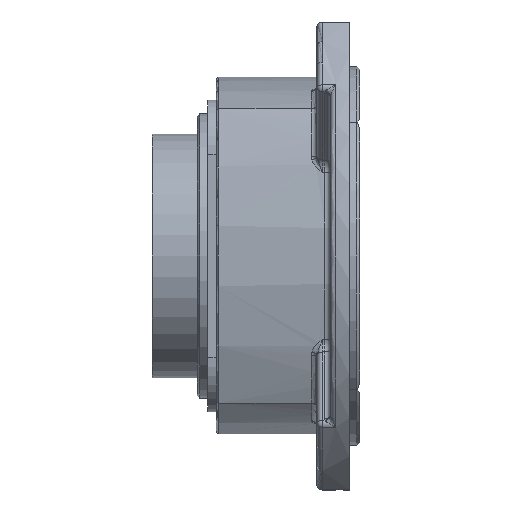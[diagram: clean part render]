
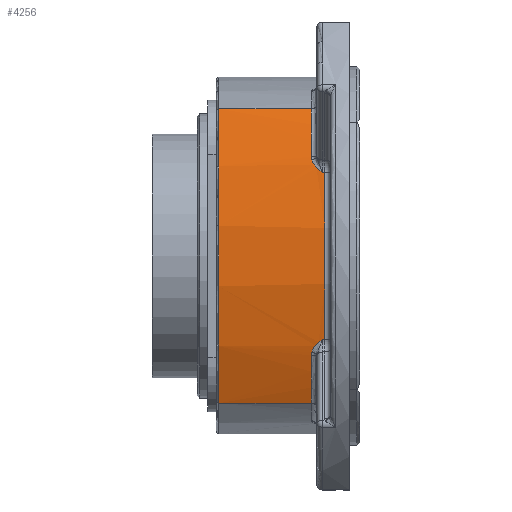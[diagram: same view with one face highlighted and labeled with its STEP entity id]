
A CAD part, front view. The second image highlights one B-rep face of the part: STEP entity #4256.
In plain terms, the highlighted cylindrical face has radius 132 mm (diameter 264 mm), a partial arc.
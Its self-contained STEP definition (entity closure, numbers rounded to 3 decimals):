
#993 = LINE ( 'NONE', #7172, #996 ) ;
#996 = VECTOR ( 'NONE', #7174, 1000. ) ;
#1009 = CIRCLE ( 'NONE', #7449, 132. ) ;
#1018 = CIRCLE ( 'NONE', #7448, 132. ) ;
#1019 = CIRCLE ( 'NONE', #7450, 132. ) ;
#1020 = LINE ( 'NONE', #7312, #1022 ) ;
#1022 = VECTOR ( 'NONE', #7314, 1000. ) ;
#1023 = LINE ( 'NONE', #7313, #1025 ) ;
#1024 = CIRCLE ( 'NONE', #7451, 132. ) ;
#1025 = VECTOR ( 'NONE', #7301, 1000. ) ;
#1139 = FACE_OUTER_BOUND ( 'NONE', #3357, .T. ) ;
#1149 = CYLINDRICAL_SURFACE ( 'NONE', #7515, 132. ) ;
#1736 = ORIENTED_EDGE ( 'NONE', *, *, #5919, .T. ) ;
#1737 = ORIENTED_EDGE ( 'NONE', *, *, #4177, .T. ) ;
#1738 = ORIENTED_EDGE ( 'NONE', *, *, #4150, .F. ) ;
#1739 = ORIENTED_EDGE ( 'NONE', *, *, #4178, .T. ) ;
#1740 = ORIENTED_EDGE ( 'NONE', *, *, #4179, .T. ) ;
#1741 = ORIENTED_EDGE ( 'NONE', *, *, #4180, .T. ) ;
#1742 = ORIENTED_EDGE ( 'NONE', *, *, #4181, .F. ) ;
#1743 = ORIENTED_EDGE ( 'NONE', *, *, #4182, .T. ) ;
#1744 = ORIENTED_EDGE ( 'NONE', *, *, #4183, .T. ) ;
#1745 = ORIENTED_EDGE ( 'NONE', *, *, #4184, .T. ) ;
#1746 = ORIENTED_EDGE ( 'NONE', *, *, #4185, .T. ) ;
#1747 = ORIENTED_EDGE ( 'NONE', *, *, #4186, .T. ) ;
#2396 = VERTEX_POINT ( 'NONE', #13708 ) ;
#2408 = VERTEX_POINT ( 'NONE', #13732 ) ;
#2410 = VERTEX_POINT ( 'NONE', #13734 ) ;
#2416 = VERTEX_POINT ( 'NONE', #13740 ) ;
#2427 = VERTEX_POINT ( 'NONE', #13751 ) ;
#2443 = VERTEX_POINT ( 'NONE', #13767 ) ;
#2463 = VERTEX_POINT ( 'NONE', #13787 ) ;
#2470 = VERTEX_POINT ( 'NONE', #13794 ) ;
#2491 = VERTEX_POINT ( 'NONE', #13815 ) ;
#2496 = VERTEX_POINT ( 'NONE', #13820 ) ;
#3357 = EDGE_LOOP ( 'NONE', ( #1736, #1737, #1738, #1739, #1740, #1741, #1742, #1743, #1744, #1745, #1746, #1747 ) ) ;
#4150 = EDGE_CURVE ( 'NONE', #2427, #2443, #993, .T. ) ;
#4177 = EDGE_CURVE ( 'NONE', #6170, #2443, #1018, .T. ) ;
#4178 = EDGE_CURVE ( 'NONE', #2427, #2463, #1009, .T. ) ;
#4179 = EDGE_CURVE ( 'NONE', #2463, #2491, #13595, .T. ) ;
#4180 = EDGE_CURVE ( 'NONE', #2491, #2410, #13596, .T. ) ;
#4181 = EDGE_CURVE ( 'NONE', #2470, #2410, #1020, .T. ) ;
#4182 = EDGE_CURVE ( 'NONE', #2470, #2416, #1019, .T. ) ;
#4183 = EDGE_CURVE ( 'NONE', #2416, #2496, #1023, .T. ) ;
#4184 = EDGE_CURVE ( 'NONE', #2496, #2408, #13597, .T. ) ;
#4185 = EDGE_CURVE ( 'NONE', #2408, #2396, #13598, .T. ) ;
#4186 = EDGE_CURVE ( 'NONE', #2396, #6029, #1024, .T. ) ;
#4256 = ADVANCED_FACE ( 'NONE', ( #1139 ), #1149, .T. ) ;
#5004 = LINE ( 'NONE', #5239, #5007 ) ;
#5007 = VECTOR ( 'NONE', #5240, 1000. ) ;
#5239 = CARTESIAN_POINT ( 'NONE',  ( -12., -54.31, 54.31 ) ) ;
#5240 = DIRECTION ( 'NONE',  ( -1., 0., 0. ) ) ;
#5456 = CARTESIAN_POINT ( 'NONE',  ( -14., -54.31, 54.31 ) ) ;
#5597 = CARTESIAN_POINT ( 'NONE',  ( -48.188, -54.31, 54.31 ) ) ;
#5919 = EDGE_CURVE ( 'NONE', #6029, #6170, #5004, .T. ) ;
#6029 = VERTEX_POINT ( 'NONE', #5456 ) ;
#6170 = VERTEX_POINT ( 'NONE', #5597 ) ;
#7172 = CARTESIAN_POINT ( 'NONE',  ( -12., -54.31, -54.31 ) ) ;
#7174 = DIRECTION ( 'NONE',  ( -1., 0., 0. ) ) ;
#7289 = CARTESIAN_POINT ( 'NONE',  ( -13.85, -61.129, -35.528 ) ) ;
#7290 = CARTESIAN_POINT ( 'NONE',  ( -48.188, 66., 0. ) ) ;
#7291 = DIRECTION ( 'NONE',  ( 1., 0., 0. ) ) ;
#7292 = DIRECTION ( 'NONE',  ( 0., 0., 1. ) ) ;
#7293 = CARTESIAN_POINT ( 'NONE',  ( -14., -60.794, -36.704 ) ) ;
#7294 = CARTESIAN_POINT ( 'NONE',  ( -14., -60.909, -36.306 ) ) ;
#7295 = CARTESIAN_POINT ( 'NONE',  ( -14., 66., 0. ) ) ;
#7296 = DIRECTION ( 'NONE',  ( -1., 0., 0. ) ) ;
#7297 = DIRECTION ( 'NONE',  ( 0., 0., 1. ) ) ;
#7298 = CARTESIAN_POINT ( 'NONE',  ( -13.785, -61.199, -35.277 ) ) ;
#7299 = CARTESIAN_POINT ( 'NONE',  ( -13.95, -61.021, -35.915 ) ) ;
#7300 = CARTESIAN_POINT ( 'NONE',  ( -13.85, -61.129, -35.528 ) ) ;
#7301 = DIRECTION ( 'NONE',  ( -1., 0., 0. ) ) ;
#7302 = CARTESIAN_POINT ( 'NONE',  ( -13.702, -61.266, -35.033 ) ) ;
#7303 = CARTESIAN_POINT ( 'NONE',  ( -13.5, -61.397, -34.557 ) ) ;
#7304 = CARTESIAN_POINT ( 'NONE',  ( -13.382, -61.46, -34.323 ) ) ;
#7305 = CARTESIAN_POINT ( 'NONE',  ( -12.989, -61.64, -33.65 ) ) ;
#7306 = CARTESIAN_POINT ( 'NONE',  ( -12.677, -61.748, -33.236 ) ) ;
#7307 = CARTESIAN_POINT ( 'NONE',  ( -11.984, -61.949, -32.455 ) ) ;
#7308 = CARTESIAN_POINT ( 'NONE',  ( -11.604, -62.041, -32.089 ) ) ;
#7309 = CARTESIAN_POINT ( 'NONE',  ( -10.816, -62.214, -31.389 ) ) ;
#7310 = CARTESIAN_POINT ( 'NONE',  ( -10.408, -62.296, -31.054 ) ) ;
#7311 = CARTESIAN_POINT ( 'NONE',  ( -10., -62.376, -30.719 ) ) ;
#7312 = CARTESIAN_POINT ( 'NONE',  ( -7., -62.376, -30.719 ) ) ;
#7313 = CARTESIAN_POINT ( 'NONE',  ( -7., -62.376, 30.719 ) ) ;
#7314 = DIRECTION ( 'NONE',  ( -1., 0., 0. ) ) ;
#7315 = CARTESIAN_POINT ( 'NONE',  ( -10., -62.376, 30.719 ) ) ;
#7316 = CARTESIAN_POINT ( 'NONE',  ( -10.408, -62.296, 31.054 ) ) ;
#7317 = CARTESIAN_POINT ( 'NONE',  ( -9., 66., 0. ) ) ;
#7318 = DIRECTION ( 'NONE',  ( -1., 0., 0. ) ) ;
#7319 = DIRECTION ( 'NONE',  ( 0., 0., 1. ) ) ;
#7320 = CARTESIAN_POINT ( 'NONE',  ( -13.95, -61.021, 35.915 ) ) ;
#7321 = CARTESIAN_POINT ( 'NONE',  ( -13.85, -61.129, 35.528 ) ) ;
#7322 = CARTESIAN_POINT ( 'NONE',  ( -10.816, -62.214, 31.389 ) ) ;
#7323 = CARTESIAN_POINT ( 'NONE',  ( -11.603, -62.041, 32.088 ) ) ;
#7324 = CARTESIAN_POINT ( 'NONE',  ( -11.983, -61.949, 32.454 ) ) ;
#7325 = CARTESIAN_POINT ( 'NONE',  ( -12.677, -61.748, 33.236 ) ) ;
#7326 = CARTESIAN_POINT ( 'NONE',  ( -12.99, -61.639, 33.651 ) ) ;
#7327 = CARTESIAN_POINT ( 'NONE',  ( -13.516, -61.398, 34.553 ) ) ;
#7328 = CARTESIAN_POINT ( 'NONE',  ( -13.721, -61.269, 35.027 ) ) ;
#7329 = CARTESIAN_POINT ( 'NONE',  ( -13.85, -61.129, 35.528 ) ) ;
#7332 = CARTESIAN_POINT ( 'NONE',  ( -14., -60.909, 36.306 ) ) ;
#7333 = CARTESIAN_POINT ( 'NONE',  ( -14., -60.794, 36.704 ) ) ;
#7335 = CARTESIAN_POINT ( 'NONE',  ( -14., 66., 0. ) ) ;
#7336 = DIRECTION ( 'NONE',  ( -1., 0., 0. ) ) ;
#7337 = DIRECTION ( 'NONE',  ( 0., 0., 1. ) ) ;
#7448 = AXIS2_PLACEMENT_3D ( 'NONE', #7290, #7291, #7292 ) ;
#7449 = AXIS2_PLACEMENT_3D ( 'NONE', #7295, #7296, #7297 ) ;
#7450 = AXIS2_PLACEMENT_3D ( 'NONE', #7317, #7318, #7319 ) ;
#7451 = AXIS2_PLACEMENT_3D ( 'NONE', #7335, #7336, #7337 ) ;
#7515 = AXIS2_PLACEMENT_3D ( 'NONE', #7817, #7816, #7809 ) ;
#7809 = DIRECTION ( 'NONE',  ( 0., 0., 1. ) ) ;
#7816 = DIRECTION ( 'NONE',  ( -1., 0., 0. ) ) ;
#7817 = CARTESIAN_POINT ( 'NONE',  ( -12., 66., 0. ) ) ;
#13595 = B_SPLINE_CURVE_WITH_KNOTS ( 'NONE', 3,
 ( #7293, #7294, #7299, #7300 ),
 .UNSPECIFIED., .F., .F.,
 ( 4, 4 ),
 ( 0., 0.001 ),
 .UNSPECIFIED. ) ;
#13596 = B_SPLINE_CURVE_WITH_KNOTS ( 'NONE', 3,
 ( #7289, #7298, #7302, #7303, #7304, #7305, #7306, #7307, #7308, #7309, #7310, #7311 ),
 .UNSPECIFIED., .F., .F.,
 ( 4, 2, 2, 2, 2, 4 ),
 ( 0., 0.001, 0.002, 0.003, 0.005, 0.006 ),
 .UNSPECIFIED. ) ;
#13597 = B_SPLINE_CURVE_WITH_KNOTS ( 'NONE', 3,
 ( #7315, #7316, #7322, #7323, #7324, #7325, #7326, #7327, #7328, #7329 ),
 .UNSPECIFIED., .F., .F.,
 ( 4, 2, 2, 2, 4 ),
 ( 0., 0.002, 0.003, 0.005, 0.006 ),
 .UNSPECIFIED. ) ;
#13598 = B_SPLINE_CURVE_WITH_KNOTS ( 'NONE', 3,
 ( #7321, #7320, #7332, #7333 ),
 .UNSPECIFIED., .F., .F.,
 ( 4, 4 ),
 ( 0., 0.001 ),
 .UNSPECIFIED. ) ;
#13708 = CARTESIAN_POINT ( 'NONE',  ( -14., -60.794, 36.704 ) ) ;
#13732 = CARTESIAN_POINT ( 'NONE',  ( -13.85, -61.129, 35.528 ) ) ;
#13734 = CARTESIAN_POINT ( 'NONE',  ( -10., -62.376, -30.719 ) ) ;
#13740 = CARTESIAN_POINT ( 'NONE',  ( -9., -62.376, 30.719 ) ) ;
#13751 = CARTESIAN_POINT ( 'NONE',  ( -14., -54.31, -54.31 ) ) ;
#13767 = CARTESIAN_POINT ( 'NONE',  ( -48.188, -54.31, -54.31 ) ) ;
#13787 = CARTESIAN_POINT ( 'NONE',  ( -14., -60.794, -36.704 ) ) ;
#13794 = CARTESIAN_POINT ( 'NONE',  ( -9., -62.376, -30.719 ) ) ;
#13815 = CARTESIAN_POINT ( 'NONE',  ( -13.85, -61.129, -35.528 ) ) ;
#13820 = CARTESIAN_POINT ( 'NONE',  ( -10., -62.376, 30.719 ) ) ;
